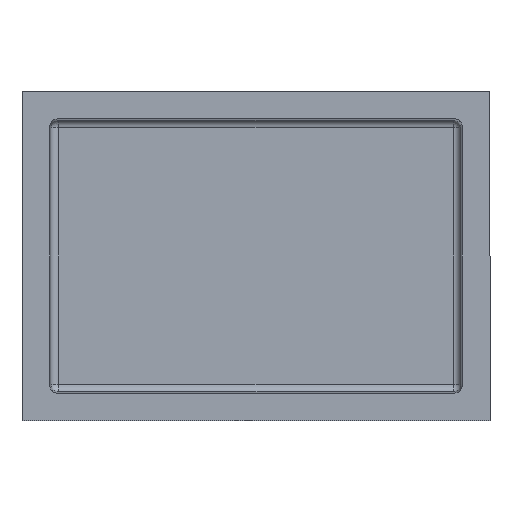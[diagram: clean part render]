
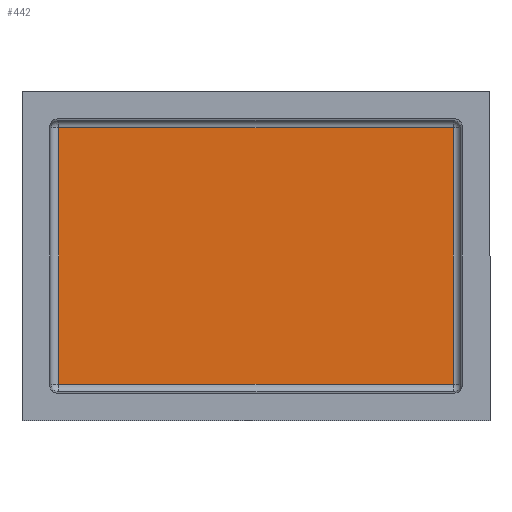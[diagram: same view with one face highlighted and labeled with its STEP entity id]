
A CAD part, front view. The second image highlights one B-rep face of the part: STEP entity #442.
In plain terms, the highlighted planar face has unit normal (0, -1, 0).
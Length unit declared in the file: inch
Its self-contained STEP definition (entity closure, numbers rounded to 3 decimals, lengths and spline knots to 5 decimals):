
#12 = CARTESIAN_POINT ( 'NONE',  ( -3.56861, 0.75, 2.31611 ) ) ;
#14 = ORIENTED_EDGE ( 'NONE', *, *, #42, .T. ) ;
#35 = DIRECTION ( 'NONE',  ( 0., 0., -1. ) ) ;
#41 = CARTESIAN_POINT ( 'NONE',  ( -3.56389, 0.75, 2.31611 ) ) ;
#42 = EDGE_CURVE ( 'NONE', #307, #568, #135, .T. ) ;
#68 = VECTOR ( 'NONE', #35, 39.37008 ) ;
#73 = PLANE ( 'NONE',  #513 ) ;
#74 = ORIENTED_EDGE ( 'NONE', *, *, #393, .T. ) ;
#91 = EDGE_LOOP ( 'NONE', ( #14, #639, #392, #74 ) ) ;
#134 = DIRECTION ( 'NONE',  ( -1., 0., 0. ) ) ;
#135 = LINE ( 'NONE', #537, #322 ) ;
#151 = VERTEX_POINT ( 'NONE', #606 ) ;
#165 = CARTESIAN_POINT ( 'NONE',  ( 3.56861, 0.75, 2.31139 ) ) ;
#192 = VECTOR ( 'NONE', #470, 39.37008 ) ;
#228 = CARTESIAN_POINT ( 'NONE',  ( 3.55779, 0.75, 2.30529 ) ) ;
#257 = CARTESIAN_POINT ( 'NONE',  ( -3.56861, 0.75, -2.31611 ) ) ;
#274 = DIRECTION ( 'NONE',  ( 0., 0., 1. ) ) ;
#307 = VERTEX_POINT ( 'NONE', #257 ) ;
#315 = LINE ( 'NONE', #165, #192 ) ;
#322 = VECTOR ( 'NONE', #430, 39.37008 ) ;
#325 = LINE ( 'NONE', #536, #68 ) ;
#390 = LINE ( 'NONE', #41, #492 ) ;
#392 = ORIENTED_EDGE ( 'NONE', *, *, #580, .T. ) ;
#393 = EDGE_CURVE ( 'NONE', #630, #307, #325, .T. ) ;
#430 = DIRECTION ( 'NONE',  ( 1., 0., 0. ) ) ;
#442 = ADVANCED_FACE ( 'NONE', ( #534 ), #73, .F. ) ;
#470 = DIRECTION ( 'NONE',  ( 0., 0., 1. ) ) ;
#485 = DIRECTION ( 'NONE',  ( 0., 1., 0. ) ) ;
#492 = VECTOR ( 'NONE', #134, 39.37008 ) ;
#504 = CARTESIAN_POINT ( 'NONE',  ( 3.56861, 0.75, -2.31611 ) ) ;
#513 = AXIS2_PLACEMENT_3D ( 'NONE', #228, #485, #274 ) ;
#534 = FACE_OUTER_BOUND ( 'NONE', #91, .T. ) ;
#536 = CARTESIAN_POINT ( 'NONE',  ( -3.56861, 0.75, -2.31139 ) ) ;
#537 = CARTESIAN_POINT ( 'NONE',  ( 3.56389, 0.75, -2.31611 ) ) ;
#568 = VERTEX_POINT ( 'NONE', #504 ) ;
#580 = EDGE_CURVE ( 'NONE', #151, #630, #390, .T. ) ;
#606 = CARTESIAN_POINT ( 'NONE',  ( 3.56861, 0.75, 2.31611 ) ) ;
#630 = VERTEX_POINT ( 'NONE', #12 ) ;
#639 = ORIENTED_EDGE ( 'NONE', *, *, #640, .T. ) ;
#640 = EDGE_CURVE ( 'NONE', #568, #151, #315, .T. ) ;
